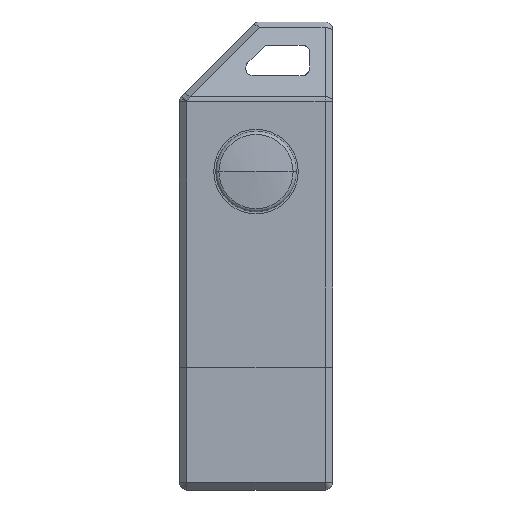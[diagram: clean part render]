
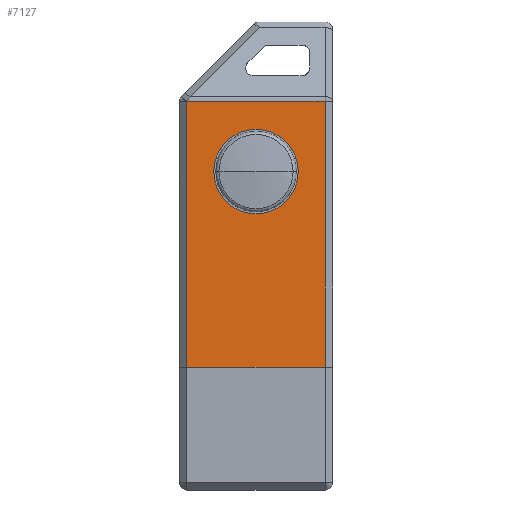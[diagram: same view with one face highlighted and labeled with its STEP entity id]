
A CAD part, front view. The second image highlights one B-rep face of the part: STEP entity #7127.
In plain terms, the highlighted planar face has unit normal (0, -1, 0).
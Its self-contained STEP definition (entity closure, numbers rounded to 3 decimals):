
#118 = ORIENTED_EDGE ( 'NONE', *, *, #27120, .T. ) ;
#339 = ORIENTED_EDGE ( 'NONE', *, *, #39284, .T. ) ;
#372 = CARTESIAN_POINT ( 'NONE',  ( 0., 0., 8. ) ) ;
#1000 = DIRECTION ( 'NONE',  ( 0., 0., -1. ) ) ;
#1506 = CARTESIAN_POINT ( 'NONE',  ( -9., 0., -17.5 ) ) ;
#2066 = DIRECTION ( 'NONE',  ( -1., 0., 0. ) ) ;
#2437 = VECTOR ( 'NONE', #3390, 1000. ) ;
#3390 = DIRECTION ( 'NONE',  ( 0., 0., 1. ) ) ;
#3956 = DIRECTION ( 'NONE',  ( 0., 0., -1. ) ) ;
#4505 = DIRECTION ( 'NONE',  ( 0., -1., 0. ) ) ;
#4666 = VECTOR ( 'NONE', #39575, 1000. ) ;
#4974 = CARTESIAN_POINT ( 'NONE',  ( 0., 0., 13.5 ) ) ;
#5483 = VECTOR ( 'NONE', #20000, 1000. ) ;
#7127 = ADVANCED_FACE ( 'NONE', ( #32034, #41597 ), #25896, .T. ) ;
#7848 = AXIS2_PLACEMENT_3D ( 'NONE', #372, #25341, #3956 ) ;
#9536 = CARTESIAN_POINT ( 'NONE',  ( 0., 0., -17.5 ) ) ;
#9681 = LINE ( 'NONE', #41363, #27542 ) ;
#10441 = CARTESIAN_POINT ( 'NONE',  ( 9., 0., 17.147 ) ) ;
#10662 = EDGE_LOOP ( 'NONE', ( #14321, #26538 ) ) ;
#11175 = CARTESIAN_POINT ( 'NONE',  ( -8.938, 0., 17.147 ) ) ;
#11225 = VERTEX_POINT ( 'NONE', #11175 ) ;
#11703 = ORIENTED_EDGE ( 'NONE', *, *, #15385, .T. ) ;
#13802 = EDGE_CURVE ( 'NONE', #19249, #40215, #24786, .T. ) ;
#14147 = LINE ( 'NONE', #21504, #4666 ) ;
#14321 = ORIENTED_EDGE ( 'NONE', *, *, #31530, .F. ) ;
#15385 = EDGE_CURVE ( 'NONE', #40215, #11225, #9681, .T. ) ;
#18378 = CARTESIAN_POINT ( 'NONE',  ( 9., 0., -17.5 ) ) ;
#18749 = VERTEX_POINT ( 'NONE', #27513 ) ;
#19249 = VERTEX_POINT ( 'NONE', #18378 ) ;
#20000 = DIRECTION ( 'NONE',  ( 1., 0., 0. ) ) ;
#21504 = CARTESIAN_POINT ( 'NONE',  ( -13.043, 0., 13.043 ) ) ;
#22365 = DIRECTION ( 'NONE',  ( 0., -1., 0. ) ) ;
#23318 = EDGE_CURVE ( 'NONE', #40574, #18749, #39638, .T. ) ;
#24786 = LINE ( 'NONE', #10441, #2437 ) ;
#25341 = DIRECTION ( 'NONE',  ( 0., -1., 0. ) ) ;
#25896 = PLANE ( 'NONE',  #28975 ) ;
#26538 = ORIENTED_EDGE ( 'NONE', *, *, #23318, .F. ) ;
#27120 = EDGE_CURVE ( 'NONE', #36598, #19249, #32894, .T. ) ;
#27513 = CARTESIAN_POINT ( 'NONE',  ( 0., 0., 2.5 ) ) ;
#27542 = VECTOR ( 'NONE', #2066, 1000. ) ;
#27786 = ORIENTED_EDGE ( 'NONE', *, *, #44353, .T. ) ;
#28536 = LINE ( 'NONE', #45324, #36984 ) ;
#28975 = AXIS2_PLACEMENT_3D ( 'NONE', #43783, #4505, #29521 ) ;
#29341 = EDGE_LOOP ( 'NONE', ( #118, #40448, #11703, #27786, #339 ) ) ;
#29521 = DIRECTION ( 'NONE',  ( 0., 0., -1. ) ) ;
#31530 = EDGE_CURVE ( 'NONE', #18749, #40574, #32616, .T. ) ;
#32034 = FACE_BOUND ( 'NONE', #10662, .T. ) ;
#32616 = CIRCLE ( 'NONE', #44670, 5.5 ) ;
#32894 = LINE ( 'NONE', #9536, #5483 ) ;
#36598 = VERTEX_POINT ( 'NONE', #1506 ) ;
#36637 = VERTEX_POINT ( 'NONE', #37639 ) ;
#36984 = VECTOR ( 'NONE', #38277, 1000. ) ;
#37639 = CARTESIAN_POINT ( 'NONE',  ( -9., 0., 17.086 ) ) ;
#38277 = DIRECTION ( 'NONE',  ( 0., 0., -1. ) ) ;
#39284 = EDGE_CURVE ( 'NONE', #36637, #36598, #28536, .T. ) ;
#39575 = DIRECTION ( 'NONE',  ( -0.707, 0., -0.707 ) ) ;
#39638 = CIRCLE ( 'NONE', #7848, 5.5 ) ;
#40215 = VERTEX_POINT ( 'NONE', #41805 ) ;
#40448 = ORIENTED_EDGE ( 'NONE', *, *, #13802, .T. ) ;
#40574 = VERTEX_POINT ( 'NONE', #4974 ) ;
#41363 = CARTESIAN_POINT ( 'NONE',  ( 0., 0., 17.147 ) ) ;
#41597 = FACE_OUTER_BOUND ( 'NONE', #29341, .T. ) ;
#41805 = CARTESIAN_POINT ( 'NONE',  ( 9., 0., 17.147 ) ) ;
#43783 = CARTESIAN_POINT ( 'NONE',  ( 0., 0., 0. ) ) ;
#43864 = CARTESIAN_POINT ( 'NONE',  ( 0., 0., 8. ) ) ;
#44353 = EDGE_CURVE ( 'NONE', #11225, #36637, #14147, .T. ) ;
#44670 = AXIS2_PLACEMENT_3D ( 'NONE', #43864, #22365, #1000 ) ;
#45324 = CARTESIAN_POINT ( 'NONE',  ( -9., 0., -17.5 ) ) ;
